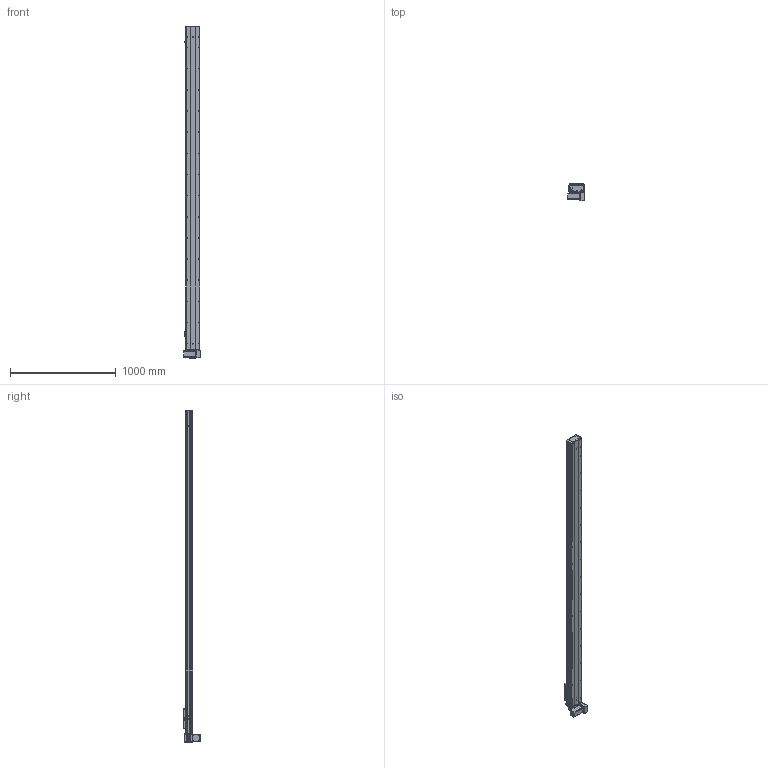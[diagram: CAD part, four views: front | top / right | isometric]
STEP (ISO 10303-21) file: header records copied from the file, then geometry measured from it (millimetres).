
FILE_DESCRIPTION (( 'STEP AP203' ), '1' );
FILE_NAME ('Y135CB-D90-S2750-BM-P400W.STEP', '2020-02-19T02:34:40', ( '微软用户' ), ( '微软中国' ), 'SwSTEP 2.0', 'SolidWorks 2017', '' );
FILE_SCHEMA (( 'CONFIG_CONTROL_DESIGN' ));
Length unit declared in the file: millimetre
Products named in the file (18): Y10B--々湍喘謫眊--666; san松下电机400不带刹车----; 00B-俋欶BM--; 5CB --掛极耜裔啣-; Y10B-耜蚾蟀諉啣----; C-詩湍揤踡え-陔; Y135CB-耜裔; Y135CB-D90-S2750-BM-P400W; 135CB--詩湍-CE; 135CB---遴掛极.-; Y100-135俋离換覜ん--; 35CB---喘謫眊楊擘啣; Y135C-陔俋离換覜結え-; 0B-埴倛裔啣; 5C--俋欶; 0B-源倛裔啣; C-雄赽釱--; 0B-萇儂楊擘啣
Assembly tree (21 placements, depth 2):
  Y135CB-D90-S2750-BM-P400W
    Y135CB-耜裔
    135CB---遴掛极.-
    35CB---喘謫眊楊擘啣
    0B-埴倛裔啣
    0B-源倛裔啣
    0B-萇儂楊擘啣
    san松下电机400不带刹车----
    5CB --掛极耜裔啣-  x2
    C-詩湍揤踡え-陔  x2
    135CB--詩湍-CE
    Y100-135俋离換覜ん--  x3
    Y135C-陔俋离換覜結え-
    5C--俋欶
    C-雄赽釱--
    Y10B--々湍喘謫眊--666
    00B-俋欶BM--
    Y10B-耜蚾蟀諉啣----
Bounding box: 157 x 163.3 x 3138 mm (x, y, z)
Volume: 8930990.4 mm3; surface area: 3540659.8 mm2
Topology: 21 solids, 21 shells, 981 faces, 2689 edges, 1782 vertices
Faces by surface type: cylinder 509, plane 456, cone 16
Entity records: 31167 total; most frequent: CARTESIAN_POINT 5208, DIRECTION 5181, ORIENTED_EDGE 4854, EDGE_CURVE 2427, AXIS2_PLACEMENT_3D 1903, VERTEX_POINT 1610, LINE 1375, VECTOR 1375
